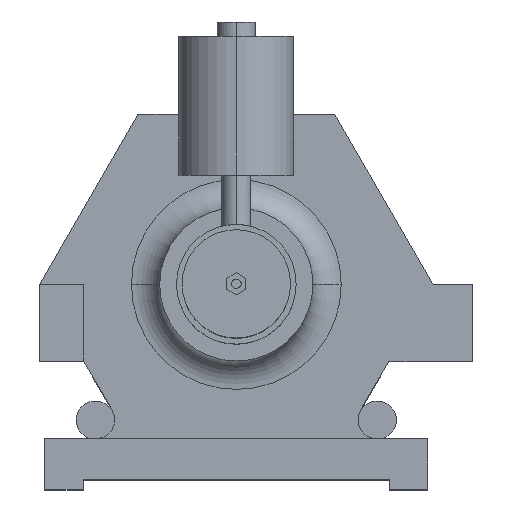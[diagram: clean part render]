
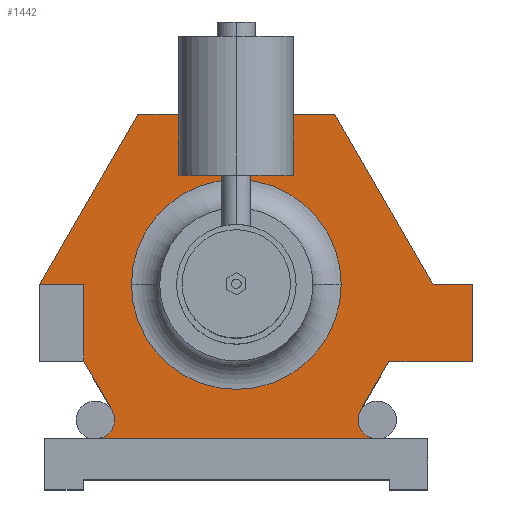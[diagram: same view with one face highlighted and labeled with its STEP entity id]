
A CAD part, top view. The second image highlights one B-rep face of the part: STEP entity #1442.
In plain terms, the highlighted planar face has unit normal (0, 0, 1).
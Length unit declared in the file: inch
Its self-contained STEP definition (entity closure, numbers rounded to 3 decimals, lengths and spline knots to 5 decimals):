
#933 = CARTESIAN_POINT ( 'NONE',  ( -5.13842, 0., 0. ) ) ;
#1109 = VERTEX_POINT ( 'NONE', #2365 ) ;
#1111 = VERTEX_POINT ( 'NONE', #2301 ) ;
#1118 = EDGE_CURVE ( 'NONE', #1119, #1120, #2396, .T. ) ;
#1119 = VERTEX_POINT ( 'NONE', #2275 ) ;
#1120 = VERTEX_POINT ( 'NONE', #2274 ) ;
#1168 = EDGE_CURVE ( 'NONE', #1111, #1109, #2696, .T. ) ;
#1286 = EDGE_CURVE ( 'NONE', #1287, #1447, #2808, .T. ) ;
#1287 = VERTEX_POINT ( 'NONE', #2804 ) ;
#1288 = ORIENTED_EDGE ( 'NONE', *, *, #1289, .F. ) ;
#1289 = EDGE_CURVE ( 'NONE', #1413, #1287, #2803, .T. ) ;
#1297 = EDGE_CURVE ( 'NONE', #1120, #1119, #2753, .T. ) ;
#1376 = ORIENTED_EDGE ( 'NONE', *, *, #1118, .F. ) ;
#1377 = ORIENTED_EDGE ( 'NONE', *, *, #1297, .F. ) ;
#1378 = EDGE_LOOP ( 'NONE', ( #1379, #1392, #1393, #1396, #1399, #1402, #1405, #1408, #1445, #1448, #1288, #1414, #1416, #1417 ) ) ;
#1379 = ORIENTED_EDGE ( 'NONE', *, *, #1380, .F. ) ;
#1380 = EDGE_CURVE ( 'NONE', #1111, #1381, #2833, .T. ) ;
#1381 = VERTEX_POINT ( 'NONE', #2829 ) ;
#1392 = ORIENTED_EDGE ( 'NONE', *, *, #1168, .T. ) ;
#1393 = ORIENTED_EDGE ( 'NONE', *, *, #1394, .T. ) ;
#1394 = EDGE_CURVE ( 'NONE', #1109, #1395, #2985, .T. ) ;
#1395 = VERTEX_POINT ( 'NONE', #3091 ) ;
#1396 = ORIENTED_EDGE ( 'NONE', *, *, #1397, .F. ) ;
#1397 = EDGE_CURVE ( 'NONE', #1398, #1395, #3090, .T. ) ;
#1398 = VERTEX_POINT ( 'NONE', #3086 ) ;
#1399 = ORIENTED_EDGE ( 'NONE', *, *, #1400, .T. ) ;
#1400 = EDGE_CURVE ( 'NONE', #1398, #1401, #3024, .T. ) ;
#1401 = VERTEX_POINT ( 'NONE', #3035 ) ;
#1402 = ORIENTED_EDGE ( 'NONE', *, *, #1403, .F. ) ;
#1403 = EDGE_CURVE ( 'NONE', #1404, #1401, #3034, .T. ) ;
#1404 = VERTEX_POINT ( 'NONE', #3130 ) ;
#1405 = ORIENTED_EDGE ( 'NONE', *, *, #1406, .T. ) ;
#1406 = EDGE_CURVE ( 'NONE', #1404, #1407, #3129, .T. ) ;
#1407 = VERTEX_POINT ( 'NONE', #3112 ) ;
#1408 = ORIENTED_EDGE ( 'NONE', *, *, #1409, .F. ) ;
#1409 = EDGE_CURVE ( 'NONE', #1444, #1407, #3111, .T. ) ;
#1413 = VERTEX_POINT ( 'NONE', #2990 ) ;
#1414 = ORIENTED_EDGE ( 'NONE', *, *, #1415, .F. ) ;
#1415 = EDGE_CURVE ( 'NONE', #1483, #1413, #2989, .T. ) ;
#1416 = ORIENTED_EDGE ( 'NONE', *, *, #1473, .F. ) ;
#1417 = ORIENTED_EDGE ( 'NONE', *, *, #1418, .T. ) ;
#1418 = EDGE_CURVE ( 'NONE', #1471, #1381, #3097, .T. ) ;
#1442 = ADVANCED_FACE ( 'NONE', ( #3051, #3050 ), #3049, .F. ) ;
#1443 = EDGE_LOOP ( 'NONE', ( #1376, #1377 ) ) ;
#1444 = VERTEX_POINT ( 'NONE', #3067 ) ;
#1445 = ORIENTED_EDGE ( 'NONE', *, *, #1446, .T. ) ;
#1446 = EDGE_CURVE ( 'NONE', #1444, #1447, #3066, .T. ) ;
#1447 = VERTEX_POINT ( 'NONE', #3061 ) ;
#1448 = ORIENTED_EDGE ( 'NONE', *, *, #1286, .F. ) ;
#1471 = VERTEX_POINT ( 'NONE', #3016 ) ;
#1473 = EDGE_CURVE ( 'NONE', #1471, #1483, #3015, .T. ) ;
#1483 = VERTEX_POINT ( 'NONE', #933 ) ;
#2274 = CARTESIAN_POINT ( 'NONE',  ( 2.74, 0., 0. ) ) ;
#2275 = CARTESIAN_POINT ( 'NONE',  ( -2.74, 0., 0. ) ) ;
#2301 = CARTESIAN_POINT ( 'NONE',  ( -3.24554, -3.27856, 0. ) ) ;
#2365 = CARTESIAN_POINT ( 'NONE',  ( -3.17856, -3.52856, 0. ) ) ;
#2392 = DIRECTION ( 'NONE',  ( -1., 0., 0. ) ) ;
#2393 = DIRECTION ( 'NONE',  ( 0., 0., 1. ) ) ;
#2394 = CARTESIAN_POINT ( 'NONE',  ( 0., 0., 0. ) ) ;
#2395 = AXIS2_PLACEMENT_3D ( 'NONE', #2394, #2393, #2392 ) ;
#2396 = CIRCLE ( 'NONE', #2395, 2.74 ) ;
#2688 = DIRECTION ( 'NONE',  ( 1., 0., 0. ) ) ;
#2689 = DIRECTION ( 'NONE',  ( 0., 0., -1. ) ) ;
#2690 = CARTESIAN_POINT ( 'NONE',  ( -3.67856, -3.52856, 0. ) ) ;
#2691 = AXIS2_PLACEMENT_3D ( 'NONE', #2690, #2689, #2688 ) ;
#2696 = CIRCLE ( 'NONE', #2691, 0.5 ) ;
#2745 = DIRECTION ( 'NONE',  ( -1., 0., 0. ) ) ;
#2746 = DIRECTION ( 'NONE',  ( 0., 0., 1. ) ) ;
#2747 = CARTESIAN_POINT ( 'NONE',  ( 0., 0., 0. ) ) ;
#2748 = AXIS2_PLACEMENT_3D ( 'NONE', #2747, #2746, #2745 ) ;
#2753 = CIRCLE ( 'NONE', #2748, 2.74 ) ;
#2800 = DIRECTION ( 'NONE',  ( 1., 0., 0. ) ) ;
#2801 = VECTOR ( 'NONE', #2800, 39.37008 ) ;
#2802 = CARTESIAN_POINT ( 'NONE',  ( 0., 4.45, 0. ) ) ;
#2803 = LINE ( 'NONE', #2802, #2801 ) ;
#2804 = CARTESIAN_POINT ( 'NONE',  ( 2.56921, 4.45, 0. ) ) ;
#2805 = DIRECTION ( 'NONE',  ( 0.5, -0.866, 0. ) ) ;
#2806 = VECTOR ( 'NONE', #2805, 39.37008 ) ;
#2807 = CARTESIAN_POINT ( 'NONE',  ( 3.85381, 2.225, 0. ) ) ;
#2808 = LINE ( 'NONE', #2807, #2806 ) ;
#2829 = CARTESIAN_POINT ( 'NONE',  ( -3.98372, -2., 0. ) ) ;
#2830 = DIRECTION ( 'NONE',  ( -0.5, 0.866, 0. ) ) ;
#2831 = VECTOR ( 'NONE', #2830, 39.37008 ) ;
#2832 = CARTESIAN_POINT ( 'NONE',  ( -3.61463, -2.63928, 0. ) ) ;
#2833 = LINE ( 'NONE', #2832, #2831 ) ;
#2985 = CIRCLE ( 'NONE', #2991, 0.5 ) ;
#2986 = DIRECTION ( 'NONE',  ( 0.5, 0.866, 0. ) ) ;
#2987 = VECTOR ( 'NONE', #2986, 39.37008 ) ;
#2988 = CARTESIAN_POINT ( 'NONE',  ( -3.85381, 2.225, 0. ) ) ;
#2989 = LINE ( 'NONE', #2988, #2987 ) ;
#2990 = CARTESIAN_POINT ( 'NONE',  ( -2.56921, 4.45, 0. ) ) ;
#2991 = AXIS2_PLACEMENT_3D ( 'NONE', #3005, #3004, #3072 ) ;
#3004 = DIRECTION ( 'NONE',  ( 0., 0., -1. ) ) ;
#3005 = CARTESIAN_POINT ( 'NONE',  ( -3.67856, -3.52856, 0. ) ) ;
#3012 = DIRECTION ( 'NONE',  ( -1., 0., 0. ) ) ;
#3013 = VECTOR ( 'NONE', #3012, 39.37008 ) ;
#3014 = CARTESIAN_POINT ( 'NONE',  ( 0.47993, 0., 0. ) ) ;
#3015 = LINE ( 'NONE', #3014, #3013 ) ;
#3016 = CARTESIAN_POINT ( 'NONE',  ( -3.98372, 0., 0. ) ) ;
#3021 = DIRECTION ( 'NONE',  ( 0., 0., -1. ) ) ;
#3022 = CARTESIAN_POINT ( 'NONE',  ( 3.67856, -3.52856, 0. ) ) ;
#3023 = AXIS2_PLACEMENT_3D ( 'NONE', #3022, #3021, #3036 ) ;
#3024 = CIRCLE ( 'NONE', #3023, 0.5 ) ;
#3030 = DIRECTION ( 'NONE',  ( 0., -1., 0. ) ) ;
#3031 = VECTOR ( 'NONE', #3030, 39.37008 ) ;
#3032 = VECTOR ( 'NONE', #3131, 39.37008 ) ;
#3033 = CARTESIAN_POINT ( 'NONE',  ( 3.61463, -2.63928, 0. ) ) ;
#3034 = LINE ( 'NONE', #3033, #3032 ) ;
#3035 = CARTESIAN_POINT ( 'NONE',  ( 3.24554, -3.27856, 0. ) ) ;
#3036 = DIRECTION ( 'NONE',  ( 1., 0., 0. ) ) ;
#3049 = PLANE ( 'NONE',  #3071 ) ;
#3050 = FACE_OUTER_BOUND ( 'NONE', #1378, .T. ) ;
#3051 = FACE_BOUND ( 'NONE', #1443, .T. ) ;
#3061 = CARTESIAN_POINT ( 'NONE',  ( 5.13842, 0., 0. ) ) ;
#3063 = DIRECTION ( 'NONE',  ( -1., 0., 0. ) ) ;
#3064 = VECTOR ( 'NONE', #3063, 39.37008 ) ;
#3065 = CARTESIAN_POINT ( 'NONE',  ( 5.65226, 0., 0. ) ) ;
#3066 = LINE ( 'NONE', #3065, #3064 ) ;
#3067 = CARTESIAN_POINT ( 'NONE',  ( 6.1661, 0., 0. ) ) ;
#3068 = DIRECTION ( 'NONE',  ( -1., 0., 0. ) ) ;
#3069 = DIRECTION ( 'NONE',  ( 0., 0., -1. ) ) ;
#3070 = CARTESIAN_POINT ( 'NONE',  ( 6.1661, -4.02856, 0. ) ) ;
#3071 = AXIS2_PLACEMENT_3D ( 'NONE', #3070, #3069, #3068 ) ;
#3072 = DIRECTION ( 'NONE',  ( 1., 0., 0. ) ) ;
#3086 = CARTESIAN_POINT ( 'NONE',  ( 3.67856, -4.02856, 0. ) ) ;
#3087 = DIRECTION ( 'NONE',  ( -1., 0., 0. ) ) ;
#3088 = VECTOR ( 'NONE', #3087, 39.37008 ) ;
#3089 = CARTESIAN_POINT ( 'NONE',  ( 0., -4.02856, 0. ) ) ;
#3090 = LINE ( 'NONE', #3089, #3088 ) ;
#3091 = CARTESIAN_POINT ( 'NONE',  ( -3.67856, -4.02856, 0. ) ) ;
#3094 = DIRECTION ( 'NONE',  ( 0., -1., 0. ) ) ;
#3095 = VECTOR ( 'NONE', #3094, 39.37008 ) ;
#3096 = CARTESIAN_POINT ( 'NONE',  ( -3.98372, -1., 0. ) ) ;
#3097 = LINE ( 'NONE', #3096, #3095 ) ;
#3110 = CARTESIAN_POINT ( 'NONE',  ( 6.1661, -1., 0. ) ) ;
#3111 = LINE ( 'NONE', #3110, #3031 ) ;
#3112 = CARTESIAN_POINT ( 'NONE',  ( 6.1661, -2., 0. ) ) ;
#3113 = VECTOR ( 'NONE', #3127, 39.37008 ) ;
#3127 = DIRECTION ( 'NONE',  ( 1., 0., 0. ) ) ;
#3128 = CARTESIAN_POINT ( 'NONE',  ( 5.07491, -2., 0. ) ) ;
#3129 = LINE ( 'NONE', #3128, #3113 ) ;
#3130 = CARTESIAN_POINT ( 'NONE',  ( 3.98372, -2., 0. ) ) ;
#3131 = DIRECTION ( 'NONE',  ( -0.5, -0.866, 0. ) ) ;
